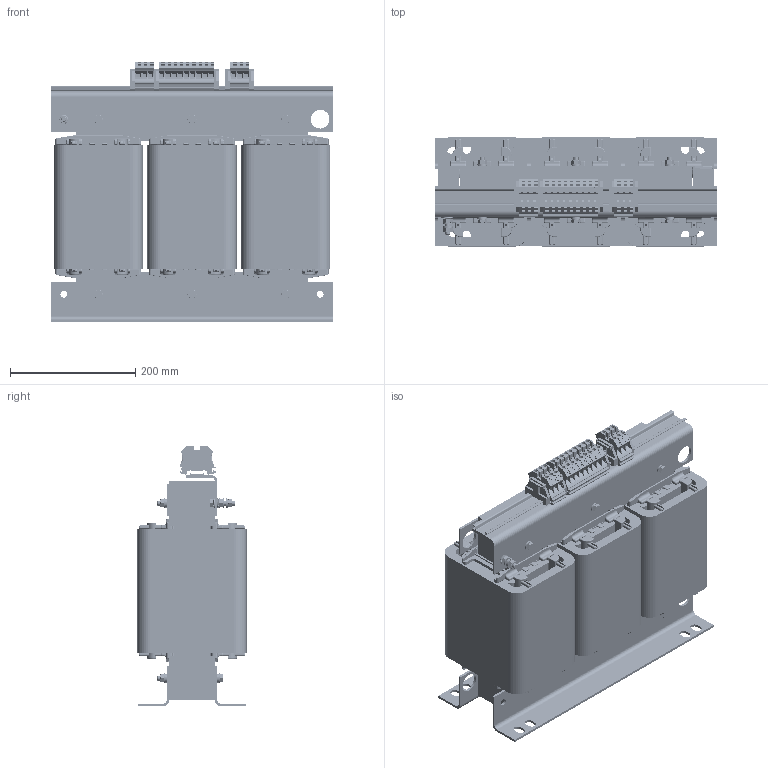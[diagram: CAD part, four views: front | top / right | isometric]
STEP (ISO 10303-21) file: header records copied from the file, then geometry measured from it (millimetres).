
FILE_DESCRIPTION((''),'2;1');
FILE_NAME('C:\Users\fp1\CAD-Daten\DTZ\DTZ16 230 400 230.stp','2014-07-02T10:54:08',('FP1'),(''),'Autodesk Inventor 2013','Autodesk Inventor 2013','');
FILE_SCHEMA(('AUTOMOTIVE_DESIGN { 1 0 10303 214 1 1 1 1 }'));
Length unit declared in the file: millimetre
Products named in the file (1): Bauteil22
Bounding box: 450 x 174.6 x 417 mm (x, y, z)
Volume: 17836659.6 mm3; surface area: 2248832.8 mm2
Topology: 4 solids, 4 shells, 13304 faces, 37992 edges, 24752 vertices
Faces by surface type: plane 10250, cylinder 2313, bspline 332, torus 170, sphere 168, cone 71
Full cylindrical faces by diameter (mm): 6.32 x30, 8 x9, 8.3 x2, 8.4 x2, 11 x3, 11.63 x7, 14 x12, 16 x14, 30 x4
Entity records: 438718 total; most frequent: CARTESIAN_POINT 95423, ORIENTED_EDGE 75304, DIRECTION 66820, EDGE_CURVE 37652, VECTOR 29590, LINE 29590, VERTEX_POINT 24632, AXIS2_PLACEMENT_3D 18615
